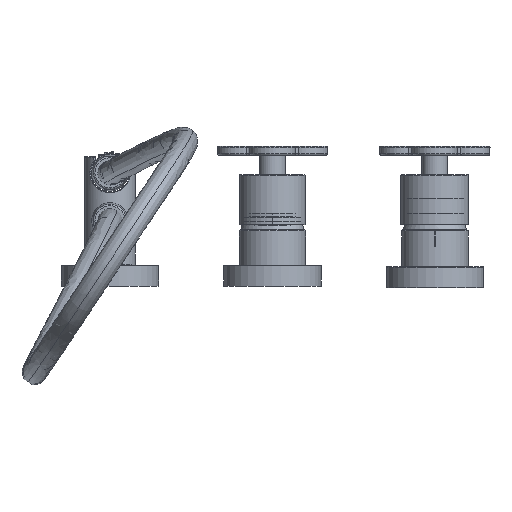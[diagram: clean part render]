
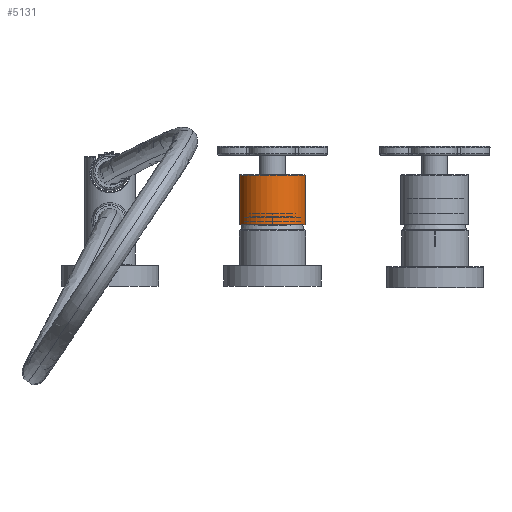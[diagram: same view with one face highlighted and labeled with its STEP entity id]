
A CAD part, front view. The second image highlights one B-rep face of the part: STEP entity #5131.
In plain terms, the highlighted cylindrical face has radius 20.5 mm (diameter 41 mm), a partial arc.
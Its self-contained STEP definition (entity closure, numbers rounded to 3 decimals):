
#2092=CARTESIAN_POINT('',(0.,0.,69.9));
#2093=DIRECTION('',(0.,0.,-1.));
#2094=DIRECTION('',(1.,0.,0.));
#2095=AXIS2_PLACEMENT_3D('',#2092,#2093,#2094);
#2097=DIRECTION('',(0.,0.,-1.));
#2098=VECTOR('',#2097,30.5);
#2099=CARTESIAN_POINT('',(20.5,0.,69.9));
#2100=LINE('',#2099,#2098);
#2101=DIRECTION('',(0.,0.,-1.));
#2102=VECTOR('',#2101,30.5);
#2103=CARTESIAN_POINT('',(-20.5,0.,69.9));
#2104=LINE('',#2103,#2102);
#2109=CARTESIAN_POINT('',(0.,0.,39.4));
#2110=DIRECTION('',(0.,0.,-1.));
#2111=DIRECTION('',(1.,0.,0.));
#2112=AXIS2_PLACEMENT_3D('',#2109,#2110,#2111);
#3668=CARTESIAN_POINT('',(20.5,0.,39.4));
#3669=CARTESIAN_POINT('',(-20.5,0.,39.4));
#3670=VERTEX_POINT('',#3668);
#3671=VERTEX_POINT('',#3669);
#3696=CARTESIAN_POINT('',(-20.5,0.,69.9));
#3697=CARTESIAN_POINT('',(20.5,0.,69.9));
#3698=VERTEX_POINT('',#3696);
#3699=VERTEX_POINT('',#3697);
#5118=CARTESIAN_POINT('',(0.,0.,37.25));
#5119=DIRECTION('',(0.,0.,1.));
#5120=DIRECTION('',(-1.,0.,0.));
#5121=AXIS2_PLACEMENT_3D('',#5118,#5119,#5120);
#5122=CYLINDRICAL_SURFACE('',#5121,20.5);
#5124=ORIENTED_EDGE('',*,*,#5123,.F.);
#5125=ORIENTED_EDGE('',*,*,#5106,.T.);
#5127=ORIENTED_EDGE('',*,*,#5126,.T.);
#5128=ORIENTED_EDGE('',*,*,#5102,.F.);
#5129=EDGE_LOOP('',(#5124,#5125,#5127,#5128));
#5130=FACE_OUTER_BOUND('',#5129,.F.);
#2096=CIRCLE('',#2095,20.5);
#2113=CIRCLE('',#2112,20.5);
#5102=EDGE_CURVE('',#3698,#3671,#2104,.T.);
#5106=EDGE_CURVE('',#3699,#3670,#2100,.T.);
#5123=EDGE_CURVE('',#3699,#3698,#2096,.T.);
#5126=EDGE_CURVE('',#3670,#3671,#2113,.T.);
#5131=ADVANCED_FACE('',(#5130),#5122,.T.);
